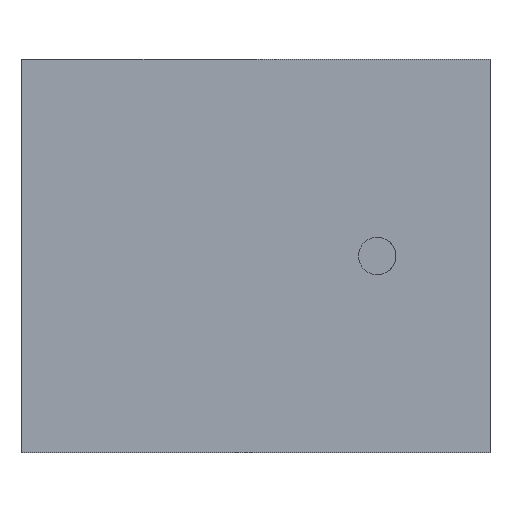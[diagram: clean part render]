
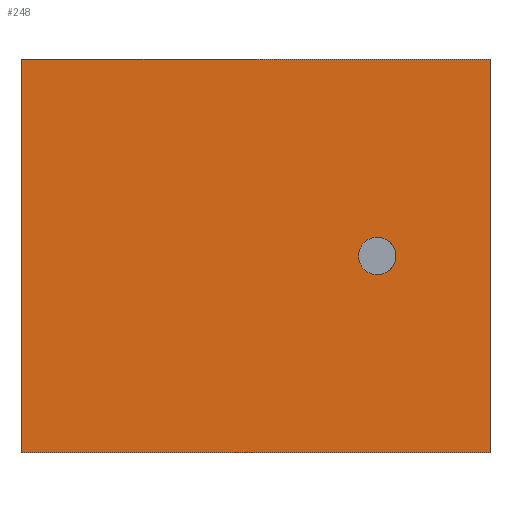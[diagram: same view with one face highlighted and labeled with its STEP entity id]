
A CAD part, front view. The second image highlights one B-rep face of the part: STEP entity #248.
In plain terms, the highlighted planar face has unit normal (0, -1, 0).
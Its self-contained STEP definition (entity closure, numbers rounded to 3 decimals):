
#223 = ORIENTED_EDGE ( 'NONE', *, *, #440, .F. ) ;
#224 = EDGE_LOOP ( 'NONE', ( #225, #228, #231, #233 ) ) ;
#225 = ORIENTED_EDGE ( 'NONE', *, *, #226, .T. ) ;
#226 = EDGE_CURVE ( 'NONE', #245, #227, #1217, .T. ) ;
#227 = VERTEX_POINT ( 'NONE', #1213 ) ;
#228 = ORIENTED_EDGE ( 'NONE', *, *, #229, .F. ) ;
#229 = EDGE_CURVE ( 'NONE', #230, #227, #1212, .T. ) ;
#230 = VERTEX_POINT ( 'NONE', #1208 ) ;
#231 = ORIENTED_EDGE ( 'NONE', *, *, #232, .F. ) ;
#232 = EDGE_CURVE ( 'NONE', #239, #230, #1207, .T. ) ;
#233 = ORIENTED_EDGE ( 'NONE', *, *, #247, .T. ) ;
#239 = VERTEX_POINT ( 'NONE', #1253 ) ;
#245 = VERTEX_POINT ( 'NONE', #1243 ) ;
#247 = EDGE_CURVE ( 'NONE', #239, #245, #1242, .T. ) ;
#248 = ADVANCED_FACE ( 'NONE', ( #1238, #1237 ), #1236, .F. ) ;
#249 = EDGE_LOOP ( 'NONE', ( #250, #223 ) ) ;
#250 = ORIENTED_EDGE ( 'NONE', *, *, #251, .F. ) ;
#251 = EDGE_CURVE ( 'NONE', #434, #427, #1231, .T. ) ;
#427 = VERTEX_POINT ( 'NONE', #1601 ) ;
#434 = VERTEX_POINT ( 'NONE', #1577 ) ;
#440 = EDGE_CURVE ( 'NONE', #427, #434, #1574, .T. ) ;
#1204 = DIRECTION ( 'NONE',  ( 1., 0., 0. ) ) ;
#1205 = VECTOR ( 'NONE', #1204, 1000. ) ;
#1206 = CARTESIAN_POINT ( 'NONE',  ( 0., 0., 42. ) ) ;
#1207 = LINE ( 'NONE', #1206, #1205 ) ;
#1208 = CARTESIAN_POINT ( 'NONE',  ( 50., 0., 42. ) ) ;
#1209 = DIRECTION ( 'NONE',  ( 0., 0., -1. ) ) ;
#1210 = VECTOR ( 'NONE', #1209, 1000. ) ;
#1211 = CARTESIAN_POINT ( 'NONE',  ( 50., 0., 42. ) ) ;
#1212 = LINE ( 'NONE', #1211, #1210 ) ;
#1213 = CARTESIAN_POINT ( 'NONE',  ( 50., 0., 0. ) ) ;
#1214 = DIRECTION ( 'NONE',  ( 1., 0., 0. ) ) ;
#1215 = VECTOR ( 'NONE', #1214, 1000. ) ;
#1216 = CARTESIAN_POINT ( 'NONE',  ( 0., 0., 0. ) ) ;
#1217 = LINE ( 'NONE', #1216, #1215 ) ;
#1227 = DIRECTION ( 'NONE',  ( 0., 0., -1. ) ) ;
#1228 = DIRECTION ( 'NONE',  ( 0., -1., 0. ) ) ;
#1229 = CARTESIAN_POINT ( 'NONE',  ( 37.95, 0., 21. ) ) ;
#1230 = AXIS2_PLACEMENT_3D ( 'NONE', #1229, #1228, #1227 ) ;
#1231 = CIRCLE ( 'NONE', #1230, 2. ) ;
#1232 = DIRECTION ( 'NONE',  ( 0., 0., 1. ) ) ;
#1233 = DIRECTION ( 'NONE',  ( 0., 1., 0. ) ) ;
#1234 = CARTESIAN_POINT ( 'NONE',  ( 0., 0., 42. ) ) ;
#1235 = AXIS2_PLACEMENT_3D ( 'NONE', #1234, #1233, #1232 ) ;
#1236 = PLANE ( 'NONE',  #1235 ) ;
#1237 = FACE_OUTER_BOUND ( 'NONE', #224, .T. ) ;
#1238 = FACE_BOUND ( 'NONE', #249, .T. ) ;
#1239 = DIRECTION ( 'NONE',  ( 0., 0., -1. ) ) ;
#1240 = VECTOR ( 'NONE', #1239, 1000. ) ;
#1241 = CARTESIAN_POINT ( 'NONE',  ( 0., 0., 42. ) ) ;
#1242 = LINE ( 'NONE', #1241, #1240 ) ;
#1243 = CARTESIAN_POINT ( 'NONE',  ( 0., 0., 0. ) ) ;
#1253 = CARTESIAN_POINT ( 'NONE',  ( 0., 0., 42. ) ) ;
#1571 = DIRECTION ( 'NONE',  ( 0., -1., 0. ) ) ;
#1572 = CARTESIAN_POINT ( 'NONE',  ( 37.95, 0., 21. ) ) ;
#1573 = AXIS2_PLACEMENT_3D ( 'NONE', #1572, #1571, #1630 ) ;
#1574 = CIRCLE ( 'NONE', #1573, 2. ) ;
#1577 = CARTESIAN_POINT ( 'NONE',  ( 37.95, 0., 19. ) ) ;
#1601 = CARTESIAN_POINT ( 'NONE',  ( 37.95, 0., 23. ) ) ;
#1630 = DIRECTION ( 'NONE',  ( 0., 0., -1. ) ) ;
